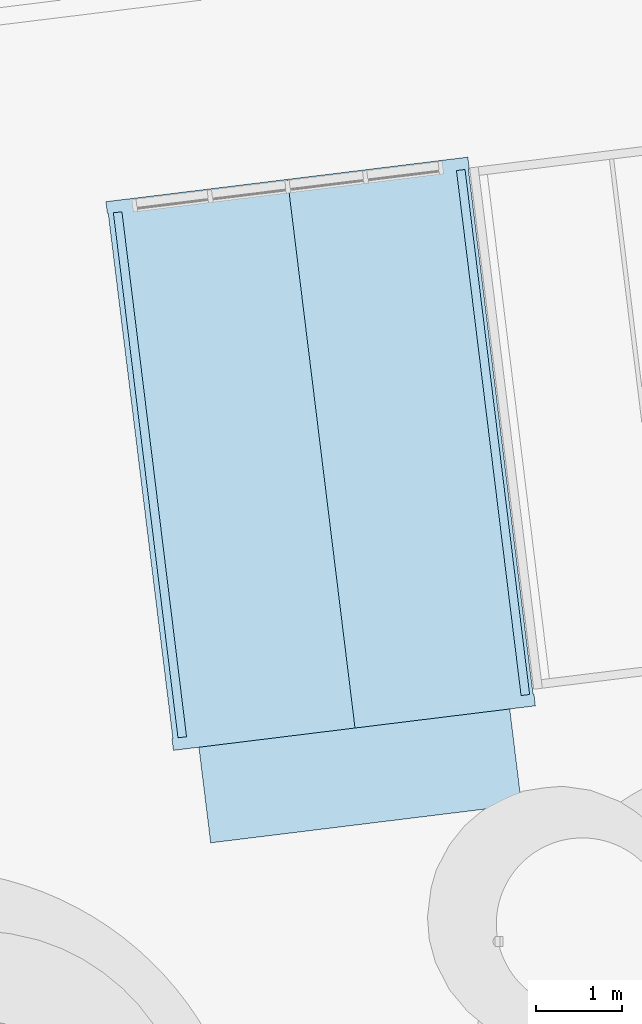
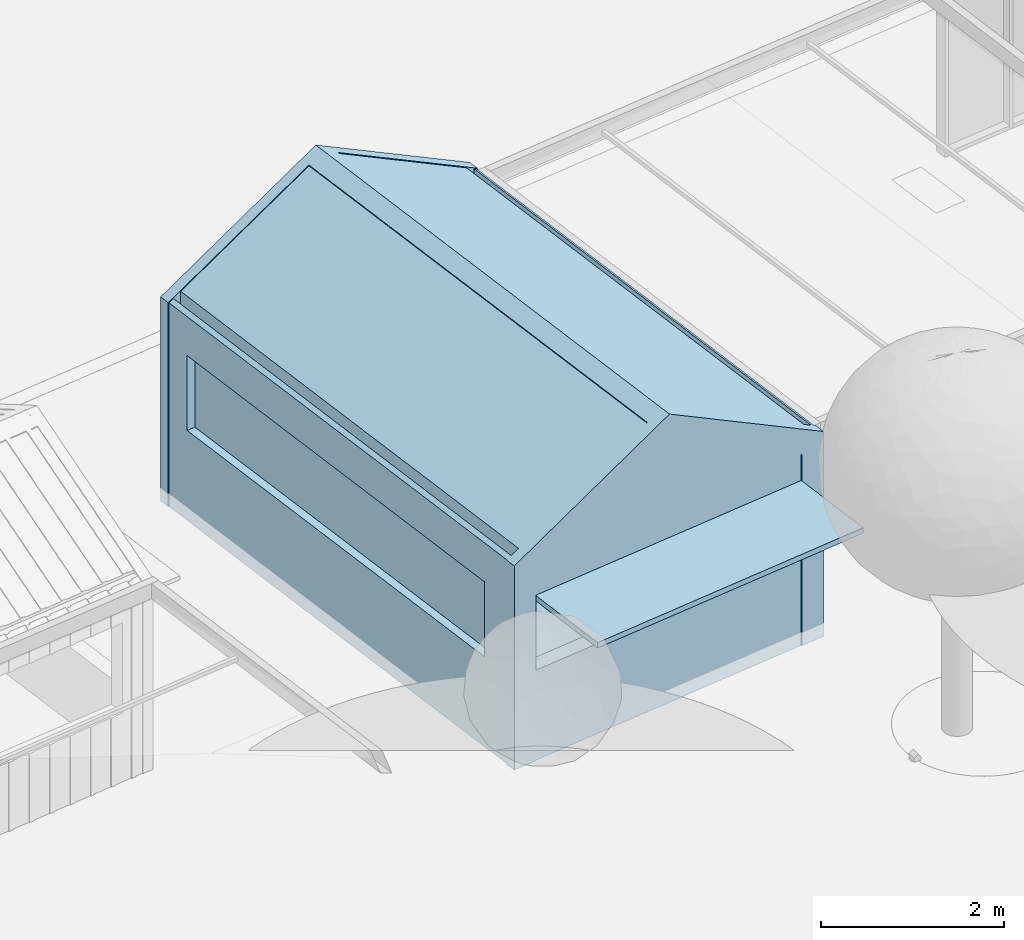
# One storey, part 46 of 75: 1 slab.
"""IFC2X3 building model written with IfcOpenShell, lengths in metres."""

from ifc_helpers import new_model, entity, si_unit, converted_unit, derived_unit, direction, frame, origin, place, context, subcontext, project, spatial, faceted_brep, material, type_object, element, save


model = new_model("IFC2X3")

# Units and contexts
model_context = context("Model", 3, precision=1e-05, world=origin(), true_north=direction((6.123031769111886e-17, 1.0)))
body_context = subcontext(model_context, "Body", "Model", "MODEL_VIEW")
ifc_project = project(units=[si_unit("LENGTHUNIT", "METRE"), si_unit("AREAUNIT", "SQUARE_METRE"), si_unit("VOLUMEUNIT", "CUBIC_METRE"), converted_unit("PLANEANGLEUNIT", "DEGREE", entity("IfcRatioMeasure", 0.017453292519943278), si_unit("PLANEANGLEUNIT", "RADIAN"), dimensions=[0, 0, 0, 0, 0, 0, 0]), si_unit("MASSUNIT", "GRAM", prefix="KILO"), derived_unit("MASSDENSITYUNIT", [(si_unit("MASSUNIT", "GRAM", prefix="KILO"), 1), (si_unit("LENGTHUNIT", "METRE"), -3)]), derived_unit("IONCONCENTRATIONUNIT", [(si_unit("MASSUNIT", "GRAM", prefix="KILO"), 1), (si_unit("LENGTHUNIT", "METRE"), -3)]), derived_unit("MOMENTOFINERTIAUNIT", [(si_unit("LENGTHUNIT", "METRE"), 4)]), si_unit("TIMEUNIT", "SECOND"), si_unit("FREQUENCYUNIT", "HERTZ"), si_unit("THERMODYNAMICTEMPERATUREUNIT", "DEGREE_CELSIUS"), derived_unit("THERMALTRANSMITTANCEUNIT", [(si_unit("MASSUNIT", "GRAM", prefix="KILO"), 1), (si_unit("THERMODYNAMICTEMPERATUREUNIT", "KELVIN"), -1), (si_unit("TIMEUNIT", "SECOND"), -3)]), derived_unit("THERMALCONDUCTANCEUNIT", [(si_unit("MASSUNIT", "GRAM", prefix="KILO"), 1), (si_unit("THERMODYNAMICTEMPERATUREUNIT", "KELVIN"), -1), (si_unit("TIMEUNIT", "SECOND"), -3), (si_unit("LENGTHUNIT", "METRE"), 1)]), derived_unit("VOLUMETRICFLOWRATEUNIT", [(si_unit("LENGTHUNIT", "METRE"), 3), (si_unit("TIMEUNIT", "SECOND"), -1)]), derived_unit("MASSFLOWRATEUNIT", [(si_unit("MASSUNIT", "GRAM", prefix="KILO"), 1), (si_unit("TIMEUNIT", "SECOND"), -1)]), derived_unit("ROTATIONALFREQUENCYUNIT", [(si_unit("TIMEUNIT", "SECOND"), -1)]), si_unit("ELECTRICCURRENTUNIT", "AMPERE"), si_unit("ELECTRICVOLTAGEUNIT", "VOLT"), si_unit("POWERUNIT", "WATT"), si_unit("FORCEUNIT", "NEWTON", prefix="KILO"), si_unit("ILLUMINANCEUNIT", "LUX"), si_unit("LUMINOUSFLUXUNIT", "LUMEN"), si_unit("LUMINOUSINTENSITYUNIT", "CANDELA"), derived_unit("USERDEFINED", [(si_unit("MASSUNIT", "GRAM", prefix="KILO"), -1), (si_unit("LENGTHUNIT", "METRE"), -2), (si_unit("TIMEUNIT", "SECOND"), 3), (si_unit("LUMINOUSFLUXUNIT", "LUMEN"), 1)]), derived_unit("USERDEFINED", [(si_unit("MASSUNIT", "GRAM", prefix="KILO"), 1), (si_unit("TIMEUNIT", "SECOND"), -3), (si_unit("LENGTHUNIT", "METRE"), 3), (si_unit("ELECTRICCURRENTUNIT", "AMPERE"), -2)]), derived_unit("SOUNDPOWERUNIT", [(si_unit("MASSUNIT", "GRAM", prefix="KILO"), 1), (si_unit("TIMEUNIT", "SECOND"), -3), (si_unit("LENGTHUNIT", "METRE"), 2)]), derived_unit("SOUNDPRESSUREUNIT", [(si_unit("MASSUNIT", "GRAM", prefix="KILO"), 1), (si_unit("LENGTHUNIT", "METRE"), -1), (si_unit("TIMEUNIT", "SECOND"), -2)]), derived_unit("LINEARVELOCITYUNIT", [(si_unit("LENGTHUNIT", "METRE"), 1), (si_unit("TIMEUNIT", "SECOND"), -1)]), si_unit("PRESSUREUNIT", "PASCAL"), derived_unit("USERDEFINED", [(si_unit("MASSUNIT", "GRAM", prefix="KILO"), 1), (si_unit("LENGTHUNIT", "METRE"), -2), (si_unit("TIMEUNIT", "SECOND"), -2)]), derived_unit("LINEARFORCEUNIT", [(si_unit("MASSUNIT", "GRAM", prefix="KILO"), 1), (si_unit("TIMEUNIT", "SECOND"), -2)]), derived_unit("PLANARFORCEUNIT", [(si_unit("MASSUNIT", "GRAM", prefix="KILO"), 1), (si_unit("LENGTHUNIT", "METRE"), -1), (si_unit("TIMEUNIT", "SECOND"), -2)]), derived_unit("SPECIFICHEATCAPACITYUNIT", [(si_unit("THERMODYNAMICTEMPERATUREUNIT", "KELVIN"), -1), (si_unit("LENGTHUNIT", "METRE"), 2), (si_unit("TIMEUNIT", "SECOND"), -2)]), derived_unit("HEATINGVALUEUNIT", [(si_unit("LENGTHUNIT", "METRE"), 2), (si_unit("TIMEUNIT", "SECOND"), -2)]), derived_unit("VAPORPERMEABILITYUNIT", [(si_unit("LENGTHUNIT", "METRE"), -1), (si_unit("TIMEUNIT", "SECOND"), 1)]), derived_unit("DYNAMICVISCOSITYUNIT", [(si_unit("MASSUNIT", "GRAM", prefix="KILO"), 1), (si_unit("TIMEUNIT", "SECOND"), -1), (si_unit("LENGTHUNIT", "METRE"), -1)]), derived_unit("THERMALEXPANSIONCOEFFICIENTUNIT", [(si_unit("THERMODYNAMICTEMPERATUREUNIT", "KELVIN"), -1)]), derived_unit("MODULUSOFELASTICITYUNIT", [(si_unit("MASSUNIT", "GRAM", prefix="KILO"), 1), (si_unit("LENGTHUNIT", "METRE"), -1), (si_unit("TIMEUNIT", "SECOND"), -2)]), derived_unit("ISOTHERMALMOISTURECAPACITYUNIT", [(si_unit("LENGTHUNIT", "METRE"), 3), (si_unit("MASSUNIT", "GRAM", prefix="KILO"), -1)]), derived_unit("MOISTUREDIFFUSIVITYUNIT", [(si_unit("TIMEUNIT", "SECOND"), -1), (si_unit("LENGTHUNIT", "METRE"), 2)])], contexts=[model_context])

# Site, building, storey
site_placement = place(None, origin())
site = spatial("IfcSite", under=ifc_project, at=site_placement, Name="Default", CompositionType="ELEMENT")
building_placement = place(site_placement, origin())
building = spatial("IfcBuilding", under=site, at=building_placement, Name="Projeto", CompositionType="ELEMENT")
storey_placement = place(building_placement, origin())
storey = spatial("IfcBuildingStorey", under=building, at=storey_placement, Name="Nível 1", CompositionType="ELEMENT", Elevation=0.0)

# Slab
ifc_material = material(Name="Aço")
slab_type = type_object("IfcSlabType", Name="Pisos 5:Pisos 1", PredefinedType="FLOOR", material=ifc_material)
slab_placement = place(storey_placement, frame((-2.638963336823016, 26.88801431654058, -2.7800000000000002)))
element("IfcSlab", 1, at=slab_placement, inside=storey, type_object=slab_type, Name="Pisos 5:Pisos 1", ObjectType="Pisos 5:Pisos 1", PredefinedType="FLOOR", context=body_context, shape_type="Brep", body=[
    faceted_brep([(2.322983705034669, 7.592257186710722, 3.737865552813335), (2.1257965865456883, 7.56798856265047, 3.843502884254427), (1.928609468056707, 7.543719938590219, 3.737865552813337), (1.9286094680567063, 7.543719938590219, 3.749486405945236), (2.1257965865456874, 7.56798856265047, 3.8551237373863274), (2.322983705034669, 7.592257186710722, 3.7494864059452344), (3.0733545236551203, 1.4953536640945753, 3.737865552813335), (3.07335452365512, 1.4953536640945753, 3.749486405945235), (2.876167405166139, 1.471085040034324, 3.855123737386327), (2.6789802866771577, 1.446816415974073, 3.749486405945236), (2.678980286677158, 1.446816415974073, 3.7378655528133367), (2.8761674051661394, 1.471085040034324, 3.8435028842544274)], [[[0, 1, 2, 3, 4, 5]], [[6, 7, 8, 9, 10, 11]], [[1, 0, 6, 11]], [[2, 1, 11, 10]], [[3, 2, 10, 9]], [[4, 3, 9, 8]], [[5, 4, 8, 7]], [[0, 5, 7, 6]]]),
    faceted_brep([(0.875815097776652, 1.6417612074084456, 1.4500000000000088), (0.21619199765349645, 7.001322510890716, 1.4500000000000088), (0.17326904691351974, 6.996039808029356, 1.4500000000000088), (0.8328921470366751, 1.6364785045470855, 1.4500000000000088), (0.875815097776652, 1.6417612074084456, 1.2000000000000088), (0.21619199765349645, 7.001322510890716, 1.2000000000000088), (0.17326904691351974, 6.996039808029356, 1.2000000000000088), (0.8328921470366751, 1.6364785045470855, 1.2000000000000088)], [[[0, 1, 2, 3]], [[1, 0, 4, 5]], [[2, 1, 5, 6]], [[3, 2, 6, 7]], [[0, 3, 7, 4]], [[4, 7, 6, 5]]]),
    faceted_brep([(4.753762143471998, 2.1253372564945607, 1.2000000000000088), (4.09490299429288, 7.4786913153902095, 1.2000000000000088), (4.136094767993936, 7.483760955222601, 1.2000000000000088), (4.794953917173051, 2.130406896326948, 1.2000000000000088), (4.794953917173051, 2.130406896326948, 1.4500000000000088), (4.753762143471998, 2.1253372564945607, 1.4500000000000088), (4.136094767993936, 7.483760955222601, 1.4500000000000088), (4.09490299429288, 7.4786913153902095, 1.4500000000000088)], [[[0, 1, 2, 3]], [[4, 5, 0, 3]], [[6, 4, 3, 2]], [[7, 6, 2, 1]], [[5, 7, 1, 0]], [[5, 4, 6, 7]]]),
    faceted_brep([(0.7842185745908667, 1.0740277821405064, 0.0), (0.767294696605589, 1.2115374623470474, 0.0), (0.7774784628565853, 1.2127908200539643, 0.0), (0.7931808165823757, 1.0852062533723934, 0.0), (0.9916830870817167, 1.109636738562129, 0.0), (0.9732409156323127, 1.2594828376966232, 0.0), (1.0623082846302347, 1.2704447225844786, 0.0), (1.081971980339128, 1.1106735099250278, 0.0), (4.9706250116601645, 1.728858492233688, 0.0), (4.987548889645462, 1.5913488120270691, 0.0), (4.6897954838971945, 1.5547030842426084, 0.0), (4.670131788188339, 1.714474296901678, 0.0), (4.7591991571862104, 1.7254361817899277, 0.0), (4.7776413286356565, 1.5755900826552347, 0.0), (4.976143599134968, 1.6000205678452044, 0.0), (4.96044124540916, 1.7276051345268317, 0.0), (0.7774784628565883, 1.212790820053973, 2.7191906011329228), (0.7931808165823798, 1.0852062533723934, 2.7191906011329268), (2.8918697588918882, 1.34350047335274, 3.8435028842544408), (4.9761435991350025, 1.6000205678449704, 2.72691307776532), (4.777641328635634, 1.5755900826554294, 2.606740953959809), (2.891869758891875, 1.3435004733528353, 3.6169888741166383), (0.9916830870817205, 1.109636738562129, 2.599018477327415), (0.9732409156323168, 1.2594828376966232, 2.59901847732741), (2.873427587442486, 1.4933465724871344, 3.6169888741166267), (4.759199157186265, 1.7254361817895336, 2.606740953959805), (4.670131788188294, 1.714474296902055, 2.5528200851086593), (2.873427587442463, 1.4933465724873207, 3.5153527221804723), (1.0623082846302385, 1.2704447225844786, 2.5450976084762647), (1.0819719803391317, 1.1106735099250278, 2.545097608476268), (2.893091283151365, 1.3335753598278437, 3.5153527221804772), (4.689795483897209, 1.5547030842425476, 2.5528200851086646), (4.9875488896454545, 1.5913488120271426, 2.7330782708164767), (2.8930912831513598, 1.3335753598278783, 3.8551237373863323), (0.7842185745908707, 1.0740277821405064, 2.7253557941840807), (0.767294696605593, 1.2115374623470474, 2.725355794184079), (2.8761674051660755, 1.4710850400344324, 3.8435028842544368), (2.8761674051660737, 1.4710850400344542, 3.855123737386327), (4.960441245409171, 1.7276051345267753, 2.726913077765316), (4.970625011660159, 1.7288584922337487, 2.733078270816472)], [[[0, 1, 2, 3, 4, 5, 6, 7]], [[8, 9, 10, 11, 12, 13, 14, 15]], [[3, 2, 16, 17]], [[4, 3, 17, 18, 19, 14, 13, 20, 21, 22]], [[5, 4, 22, 23]], [[6, 5, 23, 24, 25, 12, 11, 26, 27, 28]], [[7, 6, 28, 29]], [[0, 7, 29, 30, 31, 10, 9, 32, 33, 34]], [[0, 34, 35, 1]], [[17, 16, 36, 18]], [[23, 22, 21, 24]], [[29, 28, 27, 30]], [[35, 34, 33, 37]], [[18, 36, 38, 19]], [[24, 21, 20, 25]], [[30, 27, 26, 31]], [[37, 33, 32, 39]], [[19, 38, 15, 14]], [[25, 20, 13, 12]], [[31, 26, 11, 10]], [[39, 32, 9, 8]], [[2, 1, 35, 37, 39, 8, 15, 38, 36, 16]]]),
    faceted_brep([(1.216805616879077, 0.0, 2.2016173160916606), (4.826462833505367, 0.44425525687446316, 2.2016173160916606), (4.68857395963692, 1.5646281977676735, 2.2016173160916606), (1.0789167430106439, 1.120372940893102, 2.2016173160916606), (1.2168056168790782, 0.0, 2.130000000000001), (1.0789167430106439, 1.120372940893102, 2.130000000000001), (4.68857395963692, 1.5646281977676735, 2.130000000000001), (4.826462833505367, 0.44425525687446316, 2.130000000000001)], [[[0, 1, 2, 3]], [[4, 5, 6, 7]], [[1, 0, 4, 7]], [[2, 1, 7, 6]], [[0, 3, 5, 4]], [[3, 2, 6, 5]]]),
    faceted_brep([(4.688573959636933, 1.564628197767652, 1.2000000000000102), (1.067871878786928, 1.119013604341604, 1.20000000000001), (1.067871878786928, 1.119013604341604, 2.1978793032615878), (4.688573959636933, 1.564628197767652, 2.1978793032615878), (0.9916830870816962, 1.1096367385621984, 0.15000000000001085), (4.777641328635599, 1.575590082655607, 0.15000000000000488), (4.777641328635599, 1.575590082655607, 2.6067409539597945), (2.891869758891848, 1.343500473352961, 3.616988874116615), (0.9916830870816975, 1.1096367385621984, 2.5990184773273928), (4.6641434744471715, 1.7631304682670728, 1.2000000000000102), (4.6641434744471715, 1.7631304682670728, 2.1978793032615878), (1.0434413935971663, 1.3175158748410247, 2.1978793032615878), (1.0434413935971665, 1.3175158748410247, 1.20000000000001), (0.9672526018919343, 1.3081390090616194, 0.1500000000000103), (0.9672526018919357, 1.3081390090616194, 2.5990184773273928), (2.8674392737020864, 1.5420027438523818, 3.616988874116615), (4.753210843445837, 1.774092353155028, 2.6067409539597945), (4.753210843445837, 1.774092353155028, 0.15000000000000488)], [[[0, 1, 2, 3], [4, 5, 6, 7, 8]], [[9, 10, 11, 12], [13, 14, 15, 16, 17]], [[1, 0, 9, 12]], [[5, 4, 13, 17]], [[2, 1, 12, 11]], [[0, 3, 10, 9]], [[6, 5, 17, 16]], [[7, 6, 16, 15]], [[8, 7, 15, 14]], [[4, 8, 14, 13]], [[3, 2, 11, 10]]], outer=[[False, True], [False, True], [True], [True], [True], [True], [True], [True], [True], [True], [True]]),
    faceted_brep([(0.875815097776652, 1.6417612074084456, 2.1987812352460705), (0.21619199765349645, 7.001322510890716, 2.1987812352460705), (0.17326904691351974, 6.996039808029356, 2.1987812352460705), (0.8328921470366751, 1.6364785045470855, 2.1987812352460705), (0.875815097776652, 1.6417612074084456, 1.4500000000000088), (0.21619199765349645, 7.001322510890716, 1.4500000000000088), (0.17326904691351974, 6.996039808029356, 1.4500000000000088), (0.8328921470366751, 1.6364785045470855, 1.4500000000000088)], [[[0, 1, 2, 3]], [[1, 0, 4, 5]], [[2, 1, 5, 6]], [[3, 2, 6, 7]], [[0, 3, 7, 4]], [[4, 7, 6, 5]]]),
    faceted_brep([(4.753762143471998, 2.1253372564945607, 1.4500000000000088), (4.09490299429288, 7.4786913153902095, 1.4500000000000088), (4.136094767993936, 7.483760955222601, 1.4500000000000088), (4.794953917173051, 2.130406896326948, 1.4500000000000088), (4.794953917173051, 2.130406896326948, 2.1987812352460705), (4.753762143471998, 2.1253372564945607, 2.1987812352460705), (4.136094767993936, 7.483760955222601, 2.1987812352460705), (4.09490299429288, 7.4786913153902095, 2.1987812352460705)], [[[0, 1, 2, 3]], [[4, 5, 0, 3]], [[6, 4, 3, 2]], [[7, 6, 2, 1]], [[5, 7, 1, 0]], [[5, 4, 6, 7]]]),
    faceted_brep([(4.194368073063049, 7.952093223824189, 2.7269130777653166), (4.194368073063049, 7.952093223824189, 0.0), (0.011405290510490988, 7.4372789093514, 0.0), (0.011405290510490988, 7.4372789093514, 2.719190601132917), (2.110094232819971, 7.695573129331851, 3.8435028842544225), (3.9958658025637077, 7.9276627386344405, 2.6067409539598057), (2.1100942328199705, 7.695573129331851, 3.616988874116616), (0.20990756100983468, 7.461709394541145, 2.5990184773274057), (0.20990756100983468, 7.461709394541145, 0.20000000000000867), (3.9958658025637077, 7.9276627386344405, 0.20000000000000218), (4.976143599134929, 1.6000205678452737, 2.7269130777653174), (2.8918697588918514, 1.343500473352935, 3.8435028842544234), (0.7931808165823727, 1.0852062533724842, 2.719190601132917), (0.7931808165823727, 1.0852062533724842, 0.0), (4.97614359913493, 1.6000205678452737, 0.0), (4.777641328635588, 1.575590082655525, 2.6067409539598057), (4.777641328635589, 1.575590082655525, 0.20000000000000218), (0.9916830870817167, 1.1096367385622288, 0.20000000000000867), (0.9916830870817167, 1.1096367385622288, 2.599018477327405), (2.8918697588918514, 1.343500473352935, 3.616988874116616), (4.250278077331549, 7.497813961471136, 1.2000000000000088), (4.9099011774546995, 2.1382526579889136, 1.2000000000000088), (4.9099011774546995, 2.1382526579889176, 2.1987812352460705), (4.250278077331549, 7.497813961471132, 2.1987812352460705), (0.7269383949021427, 1.6234383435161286, 1.2000000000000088), (0.06731529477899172, 6.982999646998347, 1.2000000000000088), (0.06731529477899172, 6.982999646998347, 2.1987812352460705), (0.7269383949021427, 1.6234383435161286, 2.1987812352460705), (0.9365389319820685, 1.2323670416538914, 2.804402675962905), (0.8372877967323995, 1.2201517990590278, 2.751231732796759), (0.08691697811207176, 7.317055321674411, 2.7512317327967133), (0.18616811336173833, 7.329270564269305, 2.80440267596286), (4.170628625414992, 7.819654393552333, 2.7480428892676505), (4.9209994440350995, 1.722750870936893, 2.748042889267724), (4.821748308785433, 1.7105356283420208, 2.80121383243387), (4.071377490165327, 7.807439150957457, 2.8012138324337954), (4.711398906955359, 2.1138221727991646, 1.2000000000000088), (4.051775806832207, 7.473383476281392, 1.2000000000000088), (4.051775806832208, 7.473383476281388, 2.1987812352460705), (4.711398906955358, 2.1138221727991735, 2.1987812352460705), (0.26581756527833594, 7.007430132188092, 1.2000000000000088), (0.9254406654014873, 1.647868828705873, 1.2000000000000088), (0.9254406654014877, 1.6478688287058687, 2.1987812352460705), (0.2658175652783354, 7.007430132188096, 2.1987812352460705), (0.8372877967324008, 1.2201517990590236, 2.6192177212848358), (0.9365389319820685, 1.2323670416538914, 2.6192177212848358), (0.1861681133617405, 7.329270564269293, 2.6192177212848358), (0.08691697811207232, 7.317055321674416, 2.6192177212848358), (4.170628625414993, 7.819654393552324, 2.6192177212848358), (4.9209994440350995, 1.7227508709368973, 2.6192177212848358), (4.071377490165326, 7.807439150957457, 2.6192177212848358), (4.821748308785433, 1.7105356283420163, 2.6192177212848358)], [[[0, 1, 2, 3, 4], [5, 6, 7, 8, 9]], [[10, 11, 12, 13, 14], [15, 16, 17, 18, 19]], [[1, 0, 10, 14], [20, 21, 22, 23]], [[2, 1, 14, 13]], [[3, 2, 13, 12], [24, 25, 26, 27]], [[4, 3, 12, 11], [28, 29, 30, 31]], [[0, 4, 11, 10], [32, 33, 34, 35]], [[36, 21, 20, 37]], [[37, 20, 23, 38]], [[38, 23, 22, 39]], [[21, 36, 39, 22]], [[6, 5, 15, 19]], [[7, 6, 19, 18]], [[8, 7, 18, 17], [40, 41, 42, 43]], [[9, 8, 17, 16]], [[5, 9, 16, 15], [36, 37, 38, 39]], [[44, 45, 46, 47]], [[45, 44, 29, 28]], [[46, 45, 28, 31]], [[47, 46, 31, 30]], [[44, 47, 30, 29]], [[48, 49, 33, 32]], [[50, 48, 32, 35]], [[51, 50, 35, 34]], [[49, 51, 34, 33]], [[49, 48, 50, 51]], [[41, 24, 27, 42]], [[26, 43, 42, 27]], [[25, 40, 43, 26]], [[24, 41, 40, 25]]]),
    faceted_brep([(0.016923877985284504, 7.308440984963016, 0.0), (0.0, 7.445950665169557, 0.0), (0.2977534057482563, 7.482596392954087, 0.0), (0.31741710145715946, 7.3228251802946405, 0.0), (0.2283497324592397, 7.311863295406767, 0.0), (0.20990756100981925, 7.461709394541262, 0.0), (0.011405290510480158, 7.437278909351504, 0.0), (0.027107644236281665, 7.309694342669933, 0.0), (4.20333031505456, 7.963271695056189, 0.0), (4.220254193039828, 7.825762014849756, 0.0), (4.210070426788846, 7.824508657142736, 0.0), (4.194368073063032, 7.952093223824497, 0.0), (3.9958658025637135, 7.92766273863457, 0.0), (4.014307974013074, 7.777816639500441, 0.0), (3.925240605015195, 7.766854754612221, 0.0), (3.9055769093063, 7.926625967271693, 0.0), (0.016923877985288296, 7.3084409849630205, 2.725355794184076), (0.0, 7.445950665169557, 2.725355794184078), (2.1088727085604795, 7.705498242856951, 3.8551237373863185), (4.2033303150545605, 7.963271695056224, 2.733078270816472), (3.9055769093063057, 7.926625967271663, 2.55282008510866), (2.1088727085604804, 7.705498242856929, 3.515352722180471), (0.29775340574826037, 7.482596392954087, 2.5450976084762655), (0.31741710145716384, 7.3228251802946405, 2.545097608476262), (2.128536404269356, 7.54572703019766, 3.5153527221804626), (3.9252406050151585, 7.7668547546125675, 2.552820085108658), (4.014307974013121, 7.777816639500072, 2.6067409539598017), (2.1285364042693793, 7.545727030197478, 3.616988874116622), (0.22834973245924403, 7.311863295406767, 2.599018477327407), (0.2099075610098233, 7.461709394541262, 2.5990184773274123), (2.1100942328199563, 7.695573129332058, 3.616988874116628), (3.995865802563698, 7.927662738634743, 2.606740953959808), (4.194368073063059, 7.952093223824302, 2.726913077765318), (2.1100942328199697, 7.695573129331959, 3.8435028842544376), (0.01140529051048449, 7.437278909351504, 2.7191906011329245), (0.027107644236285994, 7.309694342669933, 2.7191906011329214), (2.1257965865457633, 7.567988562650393, 3.855123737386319), (2.125796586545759, 7.567988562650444, 3.843502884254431), (4.220254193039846, 7.825762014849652, 2.73307827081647), (4.210070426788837, 7.8245086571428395, 2.7269130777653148)], [[[0, 1, 2, 3, 4, 5, 6, 7]], [[8, 9, 10, 11, 12, 13, 14, 15]], [[0, 16, 17, 1]], [[2, 1, 17, 18, 19, 8, 15, 20, 21, 22]], [[3, 2, 22, 23]], [[4, 3, 23, 24, 25, 14, 13, 26, 27, 28]], [[5, 4, 28, 29]], [[6, 5, 29, 30, 31, 12, 11, 32, 33, 34]], [[7, 6, 34, 35]], [[17, 16, 36, 18]], [[23, 22, 21, 24]], [[29, 28, 27, 30]], [[35, 34, 33, 37]], [[18, 36, 38, 19]], [[24, 21, 20, 25]], [[30, 27, 26, 31]], [[37, 33, 32, 39]], [[19, 38, 9, 8]], [[25, 20, 15, 14]], [[31, 26, 13, 12]], [[39, 32, 11, 10]], [[0, 7, 35, 37, 39, 10, 9, 38, 36, 16]]]),
])

save(model, "model.ifc")
